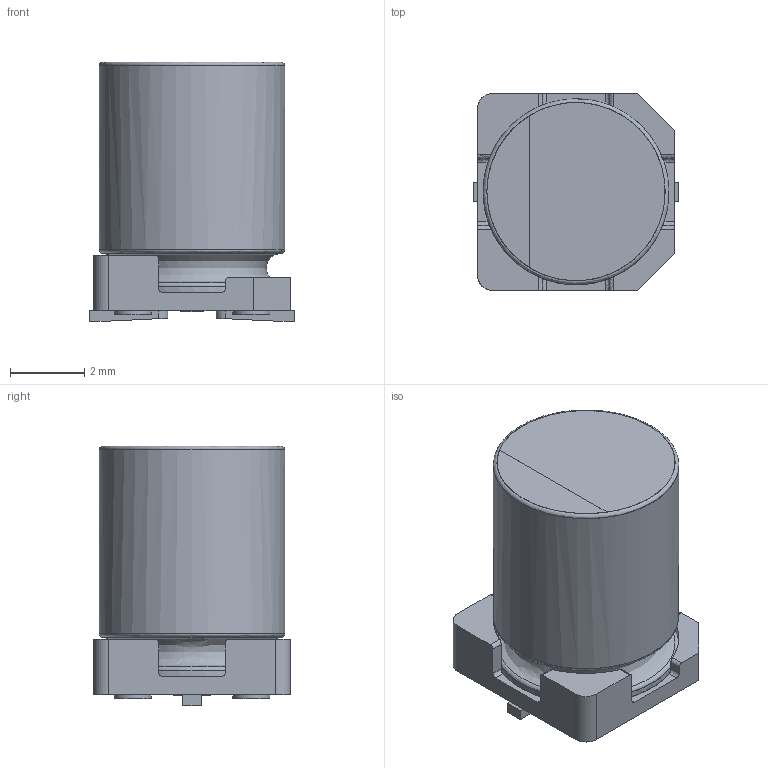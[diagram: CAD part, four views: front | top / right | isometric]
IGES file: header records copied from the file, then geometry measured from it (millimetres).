
Start section: JAMA-IS VERSION  1.0
Bounding box: 5.5 x 5.3 x 7 mm (x, y, z)
Surface area: 237.2 mm2 (no closed solid volume)
Topology: 0 solids, 0 shells, 81 faces, 944 edges, 926 vertices
Faces by surface type: bspline 81
